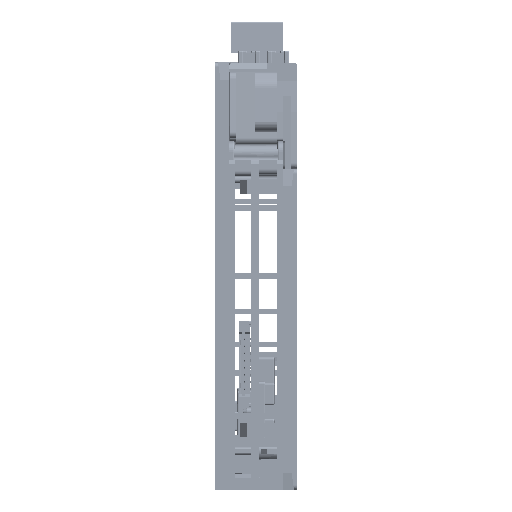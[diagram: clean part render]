
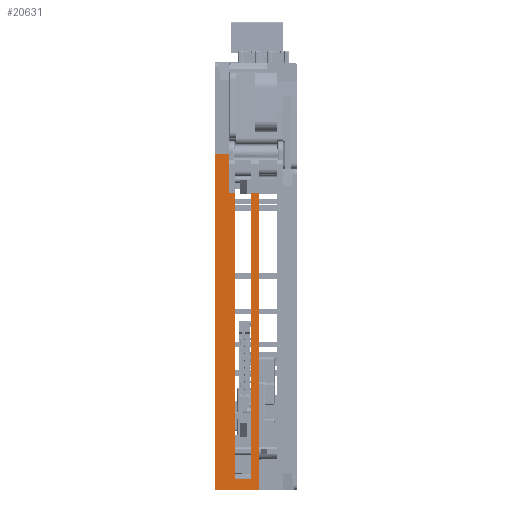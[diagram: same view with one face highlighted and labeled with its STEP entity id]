
A CAD part, front view. The second image highlights one B-rep face of the part: STEP entity #20631.
In plain terms, the highlighted planar face has unit normal (0, -1, 0).
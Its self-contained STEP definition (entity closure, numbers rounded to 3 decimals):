
#478=DIRECTION('',(0.,0.,1.));
#479=VECTOR('',#478,50.1);
#480=CARTESIAN_POINT('',(-5.,-50.,2.));
#481=LINE('',#480,#479);
#4627=DIRECTION('',(0.,0.,-1.));
#4628=VECTOR('',#4627,50.1);
#4629=CARTESIAN_POINT('',(-2.2,-50.,52.1));
#4630=LINE('',#4629,#4628);
#6158=DIRECTION('',(-1.,0.,0.));
#6159=VECTOR('',#6158,2.8);
#6160=CARTESIAN_POINT('',(-2.2,-50.,2.));
#6161=LINE('',#6160,#6159);
#6166=DIRECTION('',(1.,0.,0.));
#6167=VECTOR('',#6166,2.5);
#6168=CARTESIAN_POINT('',(-8.5,-50.,59.));
#6169=LINE('',#6168,#6167);
#6170=DIRECTION('',(0.,0.,-1.));
#6171=VECTOR('',#6170,6.9);
#6172=CARTESIAN_POINT('',(-6.,-50.,59.));
#6173=LINE('',#6172,#6171);
#6174=DIRECTION('',(1.,0.,0.));
#6175=VECTOR('',#6174,1.5);
#6176=CARTESIAN_POINT('',(-2.2,-50.,52.1));
#6177=LINE('',#6176,#6175);
#6178=DIRECTION('',(0.,0.,-1.));
#6179=VECTOR('',#6178,52.1);
#6180=CARTESIAN_POINT('',(-0.7,-50.,52.1));
#6181=LINE('',#6180,#6179);
#6198=DIRECTION('',(1.,0.,0.));
#6199=VECTOR('',#6198,7.8);
#6200=CARTESIAN_POINT('',(-8.5,-50.,0.));
#6201=LINE('',#6200,#6199);
#6652=DIRECTION('',(0.,0.,-1.));
#6653=VECTOR('',#6652,59.);
#6654=CARTESIAN_POINT('',(-8.5,-50.,59.));
#6655=LINE('',#6654,#6653);
#6746=DIRECTION('',(-1.,0.,0.));
#6747=VECTOR('',#6746,1.);
#6748=CARTESIAN_POINT('',(-5.,-50.,52.1));
#6749=LINE('',#6748,#6747);
#9362=CARTESIAN_POINT('',(-8.5,-50.,0.));
#9363=VERTEX_POINT('',#9362);
#9364=CARTESIAN_POINT('',(-0.7,-50.,0.));
#9365=VERTEX_POINT('',#9364);
#9478=CARTESIAN_POINT('',(-0.7,-50.,52.1));
#9479=VERTEX_POINT('',#9478);
#9700=CARTESIAN_POINT('',(-5.,-50.,2.));
#9701=VERTEX_POINT('',#9700);
#9702=CARTESIAN_POINT('',(-5.,-50.,52.1));
#9703=VERTEX_POINT('',#9702);
#10403=CARTESIAN_POINT('',(-6.,-50.,52.1));
#10404=VERTEX_POINT('',#10403);
#10405=CARTESIAN_POINT('',(-6.,-50.,59.));
#10406=VERTEX_POINT('',#10405);
#11682=CARTESIAN_POINT('',(-2.2,-50.,52.1));
#11683=VERTEX_POINT('',#11682);
#11684=CARTESIAN_POINT('',(-2.2,-50.,2.));
#11685=VERTEX_POINT('',#11684);
#11824=CARTESIAN_POINT('',(-8.5,-50.,59.));
#11825=VERTEX_POINT('',#11824);
#20609=CARTESIAN_POINT('',(-6.,-50.,0.));
#20610=DIRECTION('',(0.,-1.,0.));
#20611=DIRECTION('',(1.,0.,0.));
#20612=AXIS2_PLACEMENT_3D('',#20609,#20610,#20611);
#20613=PLANE('',#20612);
#20615=ORIENTED_EDGE('',*,*,#20614,.F.);
#20617=ORIENTED_EDGE('',*,*,#20616,.F.);
#20619=ORIENTED_EDGE('',*,*,#20618,.T.);
#20620=ORIENTED_EDGE('',*,*,#12417,.T.);
#20622=ORIENTED_EDGE('',*,*,#20621,.F.);
#20623=ORIENTED_EDGE('',*,*,#12842,.F.);
#20624=ORIENTED_EDGE('',*,*,#20601,.F.);
#20625=ORIENTED_EDGE('',*,*,#18694,.F.);
#20627=ORIENTED_EDGE('',*,*,#20626,.T.);
#20628=ORIENTED_EDGE('',*,*,#19922,.T.);
#20629=EDGE_LOOP('',(#20615,#20617,#20619,#20620,#20622,#20623,#20624,#20625,
#20627,#20628));
#20630=FACE_OUTER_BOUND('',#20629,.F.);
#20631=ADVANCED_FACE('',(#20630),#20613,.T.);
#12417=EDGE_CURVE('',#10406,#10404,#6173,.T.);
#12842=EDGE_CURVE('',#9701,#9703,#481,.T.);
#18694=EDGE_CURVE('',#11683,#11685,#4630,.T.);
#19922=EDGE_CURVE('',#9479,#9365,#6181,.T.);
#20601=EDGE_CURVE('',#11685,#9701,#6161,.T.);
#20614=EDGE_CURVE('',#9363,#9365,#6201,.T.);
#20616=EDGE_CURVE('',#11825,#9363,#6655,.T.);
#20618=EDGE_CURVE('',#11825,#10406,#6169,.T.);
#20621=EDGE_CURVE('',#9703,#10404,#6749,.T.);
#20626=EDGE_CURVE('',#11683,#9479,#6177,.T.);
